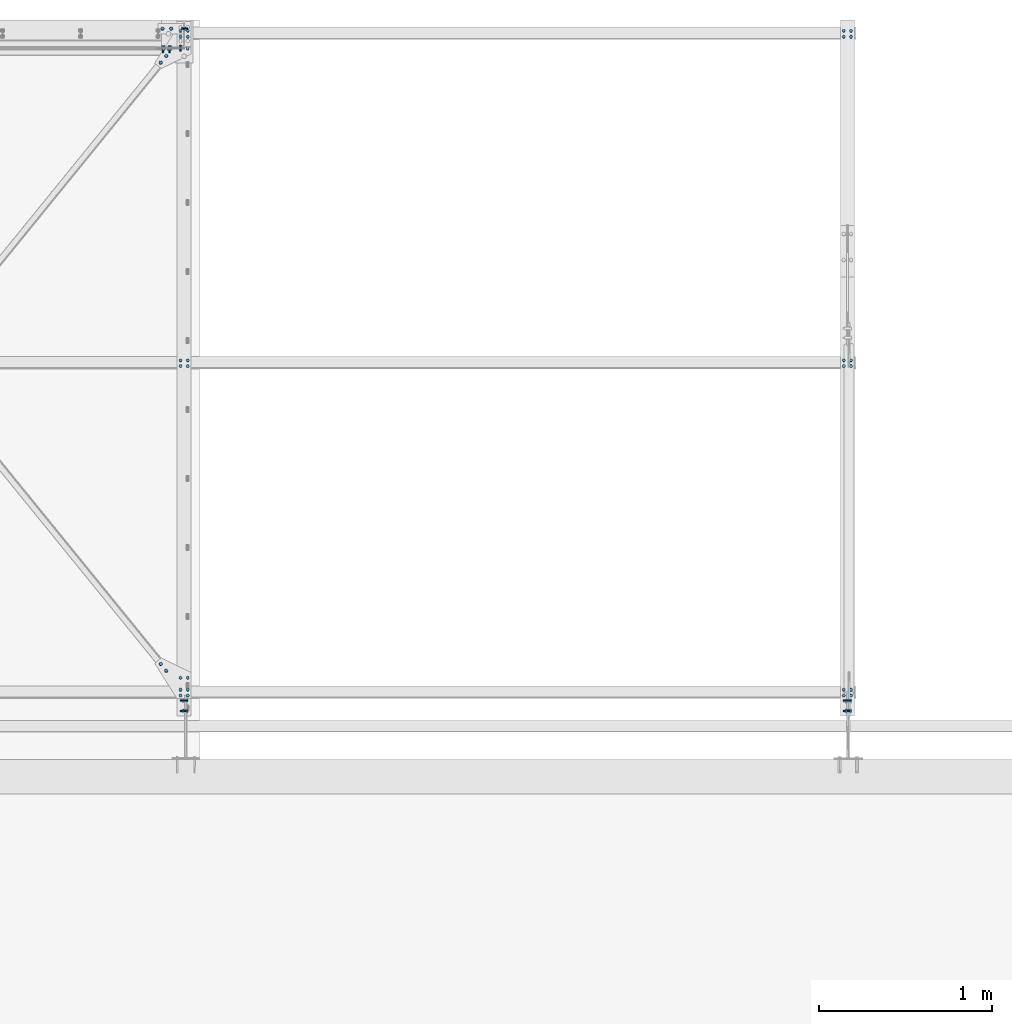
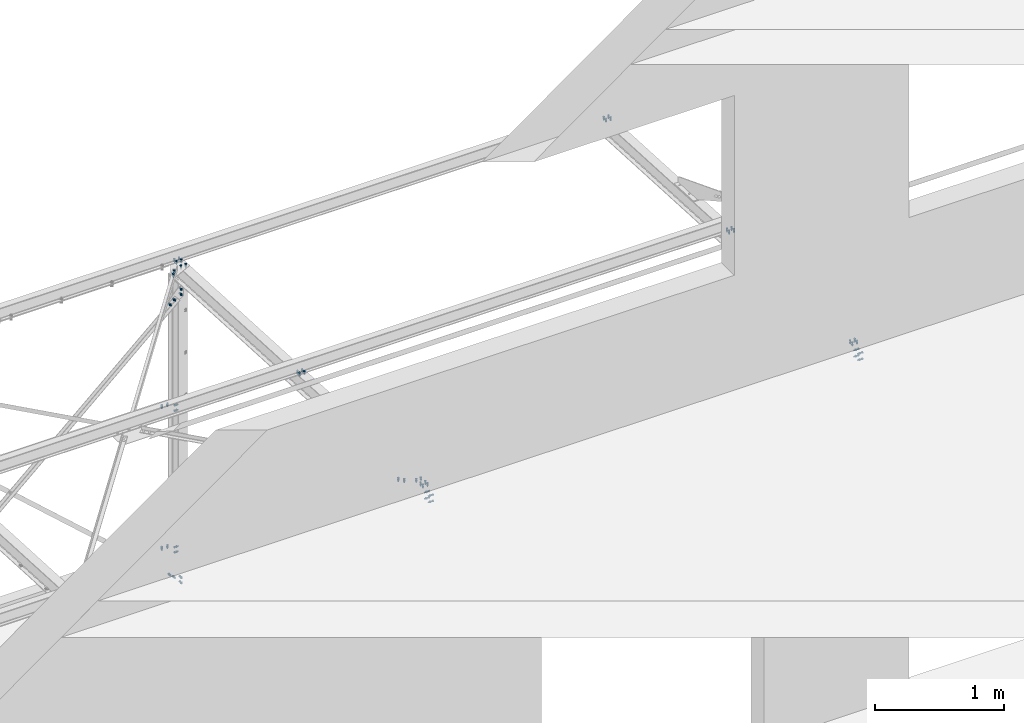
# One storey, part 340 of 362: 26 mechanical fasteners.
"""IFC2X3 building model written with IfcOpenShell, lengths in millimetres."""

from ifc_helpers import new_model, si_unit, frame, origin_with_axes, origin_2d_with_axis, place, context, subcontext, project, spatial, polyline, circle, outline, extrude, source, transform, mapped, material, type_object, element, save


model = new_model("IFC2X3")

# Units and contexts
model_context = context("Model", 3, precision=1e-05, world=origin_with_axes())
body_context = subcontext(model_context, "Body", "Model", "MODEL_VIEW")
ifc_project = project(units=[si_unit("LENGTHUNIT", "METRE", prefix="MILLI"), si_unit("AREAUNIT", "SQUARE_METRE"), si_unit("VOLUMEUNIT", "CUBIC_METRE"), si_unit("MASSUNIT", "GRAM", prefix="KILO"), si_unit("TIMEUNIT", "SECOND"), si_unit("PLANEANGLEUNIT", "RADIAN"), si_unit("SOLIDANGLEUNIT", "STERADIAN"), si_unit("THERMODYNAMICTEMPERATUREUNIT", "DEGREE_CELSIUS"), si_unit("LUMINOUSINTENSITYUNIT", "LUMEN")], contexts=[model_context])

# Site, building, storey
site_placement = place(None, origin_with_axes())
site = spatial("IfcSite", under=ifc_project, at=site_placement, Name="Undefined", CompositionType="ELEMENT")
building_placement = place(site_placement, origin_with_axes())
building = spatial("IfcBuilding", under=site, at=building_placement, Name="Undefined", CompositionType="ELEMENT")
storey_placement = place(building_placement, origin_with_axes())
storey = spatial("IfcBuildingStorey", under=building, at=storey_placement, Name="Undefined", CompositionType="ELEMENT", Elevation=0.0)

# Mechanical fasteners
ifc_material_1 = material(Name="8.8-SB-GALVA")
mechanical_fastener_type = type_object("IfcMechanicalFastenerType", Name="Bolt assembly")
shared_shape_1 = source(origin_with_axes(), body_context, "Body", "SweptSolid", [
    extrude(circle(Radius=7.0, at=origin_2d_with_axis()), frame((0.0, -6.40006625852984, 0.0), z_axis=(0.0, 1.0, 0.0), x_axis=(1.0, 0.0, 0.0)), (0.0, 0.0, 1.0), 4.0),
    extrude(circle(Radius=7.0, at=origin_2d_with_axis()), frame((0.0, -2.60000006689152, 0.0), z_axis=(0.0, 1.0, 0.0), x_axis=(1.0, 0.0, 0.0)), (0.0, 0.0, 1.0), 5.1),
    extrude(outline(polyline([(10.39230484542, 0.0), (5.19615242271, 9.00000000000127), (-5.19615242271, 9.00000000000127), (-10.39230484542, 0.0), (-5.19615242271, -9.00000000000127), (5.19615242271, -9.00000000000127), (10.39230484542, 0.0)])), frame((0.0, -14.4200662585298, 0.0), z_axis=(0.0, 1.0, 0.0), x_axis=(1.0, 0.0, 0.0)), (0.0, 0.0, 1.0), 7.92),
    extrude(circle(Radius=6.0, at=origin_2d_with_axis()), frame((0.0, -6.50006625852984, 0.0), z_axis=(0.0, 1.0, 0.0), x_axis=(1.0, 0.0, 0.0)), (0.0, 0.0, 1.0), 30.0),
    extrude(outline(polyline([(11.5008173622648, 0.0), (5.7504086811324, 9.96000000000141), (-5.7504086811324, 9.96000000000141), (-11.5008173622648, 0.0), (-5.7504086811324, -9.96000000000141), (5.7504086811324, -9.96000000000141), (11.5008173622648, 0.0)])), frame((0.0, 2.49999993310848, 0.0), z_axis=(0.0, 1.0, 0.0), x_axis=(1.0, 0.0, 0.0)), (0.0, 0.0, 1.0), 7.92),
])
mechanical_fastener_1_placement = place(storey_placement, frame((31918.8572022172, 29157.5, -74.6786560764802), z_axis=(0.666970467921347, 0.0, 0.745084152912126), x_axis=(-0.74508415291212, 0.0, 0.666970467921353)))
element("IfcMechanicalFastener", 1, at=mechanical_fastener_1_placement, inside=storey, type_object=mechanical_fastener_type, material=ifc_material_1, Name="Bolt assembly", NominalDiameter=12.0, NominalLength=30.0, context=body_context, shape_type="MappedRepresentation", body=[
    mapped(shared_shape_1, transform((0.0, 0.0, 0.0))),
    mapped(shared_shape_1, transform((49.9999999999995, 0.0, -3.63797880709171e-12))),
])
shared_shape_2 = source(origin_with_axes(), body_context, "Body", "SweptSolid", [
    extrude(circle(Radius=7.0, at=origin_2d_with_axis()), frame((0.0, 2.39993376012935, 0.0), z_axis=(0.0, 1.0, 0.0), x_axis=(1.0, 0.0, 0.0)), (0.0, 0.0, 1.0), 4.1),
    extrude(circle(Radius=7.0, at=origin_2d_with_axis()), frame((0.0, -2.4000000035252, 0.0), z_axis=(0.0, 1.0, 0.0), x_axis=(1.0, 0.0, 0.0)), (0.0, 0.0, 1.0), 5.0),
    extrude(outline(polyline([(10.39230484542, 0.0), (5.19615242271, 9.00000000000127), (-5.19615242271, 9.00000000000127), (-10.39230484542, 0.0), (-5.19615242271, -9.00000000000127), (5.19615242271, -9.00000000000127), (10.39230484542, 0.0)])), frame((0.0, -10.4200000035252, 0.0), z_axis=(0.0, 1.0, 0.0), x_axis=(1.0, 0.0, 0.0)), (0.0, 0.0, 1.0), 7.92),
    extrude(circle(Radius=6.0, at=origin_2d_with_axis()), frame((0.0, -2.5, 0.0), z_axis=(0.0, 1.0, 0.0), x_axis=(1.0, 0.0, 0.0)), (0.0, 0.0, 1.0), 30.0),
    extrude(outline(polyline([(11.5008173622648, 0.0), (5.7504086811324, 9.96000000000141), (-5.7504086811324, 9.96000000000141), (-11.5008173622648, 0.0), (-5.7504086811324, -9.96000000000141), (5.7504086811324, -9.96000000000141), (11.5008173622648, 0.0)])), frame((0.0, 6.49993376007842, 0.0), z_axis=(0.0, 1.0, 0.0), x_axis=(1.0, 0.0, 0.0)), (0.0, 0.0, 1.0), 7.92),
])
mechanical_fastener_2_placement = place(storey_placement, frame((31918.8571655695, 29157.5, 2549.67871421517), z_axis=(-0.666970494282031, 0.0, 0.745084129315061), x_axis=(-0.745084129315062, 0.0, -0.666970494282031)))
element("IfcMechanicalFastener", 2, at=mechanical_fastener_2_placement, inside=storey, type_object=mechanical_fastener_type, material=ifc_material_1, Name="Bolt assembly", NominalDiameter=12.0, NominalLength=30.0, context=body_context, shape_type="MappedRepresentation", body=[
    mapped(shared_shape_2, transform((0.0, 0.0, 0.0))),
    mapped(shared_shape_2, transform((49.9999999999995, 0.0, -3.63797880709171e-12))),
])
shared_shape_3 = source(origin_with_axes(), body_context, "Body", "SweptSolid", [
    extrude(circle(Radius=7.0, at=origin_2d_with_axis()), frame((0.0, -7.30184983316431, 0.0), z_axis=(0.0, 1.0, 0.0), x_axis=(1.0, 0.0, 0.0)), (0.0, 0.0, 1.0), 7.4),
    extrude(circle(Radius=7.0, at=origin_2d_with_axis()), frame((0.0, -0.10176059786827, 0.0), z_axis=(0.0, 1.0, 0.0), x_axis=(1.0, 0.0, 0.0)), (0.0, 0.0, 1.0), 5.1),
    extrude(outline(polyline([(10.39230484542, 0.0), (5.19615242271, 9.00000000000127), (-5.19615242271, 9.00000000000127), (-10.39230484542, 0.0), (-5.19615242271, -9.00000000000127), (5.19615242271, -9.00000000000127), (10.39230484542, 0.0)])), frame((0.0, -15.3218498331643, 0.0), z_axis=(0.0, 1.0, 0.0), x_axis=(1.0, 0.0, 0.0)), (0.0, 0.0, 1.0), 7.92),
    extrude(circle(Radius=6.0, at=origin_2d_with_axis()), frame((0.0, -7.40184983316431, 0.0), z_axis=(0.0, 1.0, 0.0), x_axis=(1.0, 0.0, 0.0)), (0.0, 0.0, 1.0), 30.0),
    extrude(outline(polyline([(11.5008173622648, 0.0), (5.7504086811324, 9.96000000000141), (-5.7504086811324, 9.96000000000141), (-11.5008173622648, 0.0), (-5.7504086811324, -9.96000000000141), (5.7504086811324, -9.96000000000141), (11.5008173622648, 0.0)])), frame((0.0, 4.99823941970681, 0.0), z_axis=(0.0, 1.0, 0.0), x_axis=(1.0, 0.0, 0.0)), (0.0, 0.0, 1.0), 7.92),
])
mechanical_fastener_3_placement = place(storey_placement, frame((31981.9998621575, 29159.9982394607, 2624.99961292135), z_axis=(-0.999999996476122, -8.38360000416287e-05, 4.39099999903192e-06), x_axis=(-4.39100001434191e-06, 0.0, -0.99999999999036)))
element("IfcMechanicalFastener", 3, at=mechanical_fastener_3_placement, inside=storey, type_object=mechanical_fastener_type, material=ifc_material_1, Name="Bolt assembly", NominalDiameter=12.0, NominalLength=30.0, context=body_context, shape_type="MappedRepresentation", body=[
    mapped(shared_shape_3, transform((0.0, 0.0, 0.0))),
    mapped(shared_shape_3, transform((49.9999999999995, 0.0, -3.63797880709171e-12))),
])
shared_shape_4 = source(origin_with_axes(), body_context, "Body", "SweptSolid", [
    extrude(circle(Radius=7.0, at=origin_2d_with_axis()), frame((0.0, -7.30007158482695, 0.0), z_axis=(0.0, 1.0, 0.0), x_axis=(1.0, 0.0, 0.0)), (0.0, 0.0, 1.0), 7.4),
    extrude(circle(Radius=7.0, at=origin_2d_with_axis()), frame((0.0, -0.100011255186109, 0.0), z_axis=(0.0, 1.0, 0.0), x_axis=(1.0, 0.0, 0.0)), (0.0, 0.0, 1.0), 5.1),
    extrude(outline(polyline([(10.39230484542, 0.0), (5.19615242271, 9.00000000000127), (-5.19615242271, 9.00000000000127), (-10.39230484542, 0.0), (-5.19615242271, -9.00000000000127), (5.19615242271, -9.00000000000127), (10.39230484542, 0.0)])), frame((0.0, -15.3200715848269, 0.0), z_axis=(0.0, 1.0, 0.0), x_axis=(1.0, 0.0, 0.0)), (0.0, 0.0, 1.0), 7.92),
    extrude(circle(Radius=6.0, at=origin_2d_with_axis()), frame((0.0, -7.40008403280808, 0.0), z_axis=(0.0, 1.0, 0.0), x_axis=(1.0, 0.0, 0.0)), (0.0, 0.0, 1.0), 30.0),
    extrude(outline(polyline([(11.5008173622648, 0.0), (5.7504086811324, 9.96000000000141), (-5.7504086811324, 9.96000000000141), (-11.5008173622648, 0.0), (-5.7504086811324, -9.96000000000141), (5.7504086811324, -9.96000000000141), (11.5008173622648, 0.0)])), frame((0.0, 5.0, 0.0), z_axis=(0.0, 1.0, 0.0), x_axis=(1.0, 0.0, 0.0)), (0.0, 0.0, 1.0), 7.92),
])
mechanical_fastener_4_placement = place(storey_placement, frame((31981.9999712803, 29160.0000052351, -150.000000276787), z_axis=(1.0, 0.0, 0.0), x_axis=(0.0, 0.0, 1.0)))
element("IfcMechanicalFastener", 4, at=mechanical_fastener_4_placement, inside=storey, type_object=mechanical_fastener_type, material=ifc_material_1, Name="Bolt assembly", NominalDiameter=12.0, NominalLength=30.0, context=body_context, shape_type="MappedRepresentation", body=[
    mapped(shared_shape_4, transform((0.0, 0.0, 0.0))),
    mapped(shared_shape_4, transform((49.9999999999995, 0.0, -3.63797880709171e-12))),
])
shared_shape_5 = source(origin_with_axes(), body_context, "Body", "SweptSolid", [
    extrude(circle(Radius=7.0, at=origin_2d_with_axis()), frame((0.0, 0.1, 0.0), z_axis=(0.0, 1.0, 0.0), x_axis=(1.0, 0.0, 0.0)), (0.0, 0.0, 1.0), 4.0),
    extrude(circle(Radius=7.0, at=origin_2d_with_axis()), frame((0.0, 3.9, 0.0), z_axis=(0.0, 1.0, 0.0), x_axis=(1.0, 0.0, 0.0)), (0.0, 0.0, 1.0), 5.1),
    extrude(outline(polyline([(10.39230484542, 0.0), (5.19615242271, 9.00000000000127), (-5.19615242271, 9.00000000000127), (-10.39230484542, 0.0), (-5.19615242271, -9.00000000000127), (5.19615242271, -9.00000000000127), (10.39230484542, 0.0)])), frame((0.0, -7.91999999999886, 0.0), z_axis=(0.0, 1.0, 0.0), x_axis=(1.0, 0.0, 0.0)), (0.0, 0.0, 1.0), 7.92),
    extrude(circle(Radius=6.0, at=origin_2d_with_axis()), frame((0.0, 0.0, 0.0), z_axis=(0.0, 1.0, 0.0), x_axis=(1.0, 0.0, 0.0)), (0.0, 0.0, 1.0), 30.0),
    extrude(outline(polyline([(11.5008173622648, 0.0), (5.7504086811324, 9.96000000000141), (-5.7504086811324, 9.96000000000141), (-11.5008173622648, 0.0), (-5.7504086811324, -9.96000000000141), (5.7504086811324, -9.96000000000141), (11.5008173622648, 0.0)])), frame((0.0, 8.99999939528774, 0.0), z_axis=(0.0, 1.0, 0.0), x_axis=(1.0, 0.0, 0.0)), (0.0, 0.0, 1.0), 7.92),
])
for number, where, z_axis, x_axis, name in (
    (5, (31877.9999406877, 29270.000022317, 150.0), (0.0, 1.0, 0.0), (1.0, 0.0, 0.0), "Bolt assembly"),
    (6, (31877.9999406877, 29270.000022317, 1490.0), (0.0, 1.0, 0.0), (1.0, 0.0, 0.0), "Bolt assembly"),
):
    element("IfcMechanicalFastener", number, at=place(storey_placement, frame(where, z_axis=z_axis, x_axis=x_axis)), inside=storey, type_object=mechanical_fastener_type, material=ifc_material_1, Name=name, NominalDiameter=12.0, NominalLength=30.0, context=body_context, shape_type="MappedRepresentation", body=[
        mapped(shared_shape_5, transform((0.0, 0.0, 0.0))),
        mapped(shared_shape_5, transform((49.9999999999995, 0.0, -3.63797880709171e-12))),
    ])
shared_shape_6 = source(origin_with_axes(), body_context, "Body", "SweptSolid", [
    extrude(circle(Radius=7.0, at=origin_2d_with_axis()), frame((0.0, -2.60000006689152, 0.0), z_axis=(0.0, 1.0, 0.0), x_axis=(1.0, 0.0, 0.0)), (0.0, 0.0, 1.0), 5.1),
    extrude(circle(Radius=7.0, at=origin_2d_with_axis()), frame((0.0, -7.9, 0.0), z_axis=(0.0, 1.0, 0.0), x_axis=(1.0, 0.0, 0.0)), (0.0, 0.0, 1.0), 5.0),
    extrude(outline(polyline([(10.39230484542, 0.0), (5.19615242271, 9.00000000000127), (-5.19615242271, 9.00000000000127), (-10.39230484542, 0.0), (-5.19615242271, -9.00000000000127), (5.19615242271, -9.00000000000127), (10.39230484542, 0.0)])), frame((0.0, -15.92, 0.0), z_axis=(0.0, 1.0, 0.0), x_axis=(1.0, 0.0, 0.0)), (0.0, 0.0, 1.0), 7.92),
    extrude(circle(Radius=6.0, at=origin_2d_with_axis()), frame((0.0, -8.0, 0.0), z_axis=(0.0, 1.0, 0.0), x_axis=(1.0, 0.0, 0.0)), (0.0, 0.0, 1.0), 30.0),
    extrude(outline(polyline([(11.5008173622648, 0.0), (5.7504086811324, 9.96000000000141), (-5.7504086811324, 9.96000000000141), (-11.5008173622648, 0.0), (-5.7504086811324, -9.96000000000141), (5.7504086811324, -9.96000000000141), (11.5008173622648, 0.0)])), frame((0.0, 2.49999993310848, 0.0), z_axis=(0.0, 1.0, 0.0), x_axis=(1.0, 0.0, 0.0)), (0.0, 0.0, 1.0), 7.92),
])
for number, where, z_axis, x_axis, name in (
    (7, (32002.999970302, 29270.0000000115, 61.0000006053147), (0.0, 1.0, 0.0), (0.0, 0.0, 1.0), "Bolt assembly"),
    (8, (32002.999970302, 29270.0000000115, 1401.00000060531), (0.0, 1.0, 0.0), (0.0, 0.0, 1.0), "Bolt assembly"),
):
    element("IfcMechanicalFastener", number, at=place(storey_placement, frame(where, z_axis=z_axis, x_axis=x_axis)), inside=storey, type_object=mechanical_fastener_type, material=ifc_material_1, Name=name, NominalDiameter=12.0, NominalLength=30.0, context=body_context, shape_type="MappedRepresentation", body=[
        mapped(shared_shape_6, transform((0.0, 0.0, 0.0))),
        mapped(shared_shape_6, transform((49.9999999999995, 0.0, -3.63797880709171e-12))),
    ])
ifc_material_2 = material(Name="6.8")
shared_shape_7 = source(origin_with_axes(), body_context, "Body", "SweptSolid", [
    extrude(circle(Radius=6.0, at=origin_2d_with_axis()), frame((0.0, -0.100011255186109, 0.0), z_axis=(0.0, 1.0, 0.0), x_axis=(1.0, 0.0, 0.0)), (0.0, 0.0, 1.0), 7.5),
    extrude(circle(Radius=6.0, at=origin_2d_with_axis()), frame((0.0, -2.4000000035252, 0.0), z_axis=(0.0, 1.0, 0.0), x_axis=(1.0, 0.0, 0.0)), (0.0, 0.0, 1.0), 5.0),
    extrude(outline(polyline([(9.81495457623, 0.0), (4.907477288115, 8.5000000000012), (-4.907477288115, 8.5000000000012), (-9.81495457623, 0.0), (-4.907477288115, -8.5000000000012), (4.907477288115, -8.5000000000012), (9.81495457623, 0.0)])), frame((0.0, -10.0000010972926, 0.0), z_axis=(0.0, 1.0, 0.0), x_axis=(1.0, 0.0, 0.0)), (0.0, 0.0, 1.0), 7.5),
    extrude(circle(Radius=5.0, at=origin_2d_with_axis()), frame((0.0, -2.5, 0.0), z_axis=(0.0, 1.0, 0.0), x_axis=(1.0, 0.0, 0.0)), (0.0, 0.0, 1.0), 30.0),
    extrude(outline(polyline([(9.23760430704, 0.0), (4.61880215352, 8.00000000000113), (-4.61880215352, 8.00000000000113), (-9.23760430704, 0.0), (-4.61880215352, -8.00000000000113), (4.61880215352, -8.00000000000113), (9.23760430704, 0.0)])), frame((0.0, 7.40000130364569, 0.0), z_axis=(0.0, 1.0, 0.0), x_axis=(1.0, 0.0, 0.0)), (0.0, 0.0, 1.0), 8.4),
])
for number, where, z_axis, x_axis, name in (
    (9, (32002.9999597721, 25511.1982472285, 3033.31818538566), (1.0, 0.0, 0.0), (0.0, -0.998630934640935, 0.0523092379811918), "Bolt assembly"),
    (10, (32002.9999505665, 29154.0293190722, 2842.50322976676), (-1.0, 0.0, 0.0), (-6.99999093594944e-09, 0.998630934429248, -0.0523092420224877), "Bolt assembly"),
):
    element("IfcMechanicalFastener", number, at=place(storey_placement, frame(where, z_axis=z_axis, x_axis=x_axis)), inside=storey, type_object=mechanical_fastener_type, material=ifc_material_2, Name=name, NominalDiameter=10.0, NominalLength=30.0, context=body_context, shape_type="MappedRepresentation", body=[
        mapped(shared_shape_7, transform((0.0, 0.0, -21.0))),
        mapped(shared_shape_7, transform((0.0, 0.0, 21.0))),
    ])
shared_shape_8 = source(origin_with_axes(), body_context, "Body", "SweptSolid", [
    extrude(circle(Radius=7.0, at=origin_2d_with_axis()), frame((0.0, -6.9, 0.0), z_axis=(0.0, 1.0, 0.0), x_axis=(1.0, 0.0, 0.0)), (0.0, 0.0, 1.0), 4.0),
    extrude(circle(Radius=7.0, at=origin_2d_with_axis()), frame((0.0, -2.60000006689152, 0.0), z_axis=(0.0, 1.0, 0.0), x_axis=(1.0, 0.0, 0.0)), (0.0, 0.0, 1.0), 5.1),
    extrude(outline(polyline([(10.39230484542, 0.0), (5.19615242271, 9.00000000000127), (-5.19615242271, 9.00000000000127), (-10.39230484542, 0.0), (-5.19615242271, -9.00000000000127), (5.19615242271, -9.00000000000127), (10.39230484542, 0.0)])), frame((0.0, -14.92, 0.0), z_axis=(0.0, 1.0, 0.0), x_axis=(1.0, 0.0, 0.0)), (0.0, 0.0, 1.0), 7.92),
    extrude(circle(Radius=6.0, at=origin_2d_with_axis()), frame((0.0, -7.0, 0.0), z_axis=(0.0, 1.0, 0.0), x_axis=(1.0, 0.0, 0.0)), (0.0, 0.0, 1.0), 30.0),
    extrude(outline(polyline([(11.5008173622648, 0.0), (5.7504086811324, 9.96000000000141), (-5.7504086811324, 9.96000000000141), (-11.5008173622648, 0.0), (-5.7504086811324, -9.96000000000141), (5.7504086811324, -9.96000000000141), (11.5008173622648, 0.0)])), frame((0.0, 2.49999993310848, 0.0), z_axis=(0.0, 1.0, 0.0), x_axis=(1.0, 0.0, 0.0)), (0.0, 0.0, 1.0), 7.92),
])
for number, where, z_axis, x_axis, name in (
    (11, (31899.2102214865, 29112.2793323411, 2844.69013037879), (0.776487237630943, -0.629270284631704, 0.0329617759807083), (-0.630132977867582, -0.775424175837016, 0.0406174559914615), "Bolt assembly"),
    (12, (31899.2102518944, 25552.9467522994, 3031.13135787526), (-0.776487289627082, -0.629270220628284, 0.032961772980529), (-0.63013291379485, 0.77542422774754, -0.0406174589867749), "Bolt assembly"),
):
    element("IfcMechanicalFastener", number, at=place(storey_placement, frame(where, z_axis=z_axis, x_axis=x_axis)), inside=storey, type_object=mechanical_fastener_type, material=ifc_material_1, Name=name, NominalDiameter=12.0, NominalLength=30.0, context=body_context, shape_type="MappedRepresentation", body=[
        mapped(shared_shape_8, transform((0.0, 0.0, 0.0))),
        mapped(shared_shape_8, transform((49.9999999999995, 0.0, -3.63797880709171e-12))),
    ])
shared_shape_9 = source(origin_with_axes(), body_context, "Body", "SweptSolid", [
    extrude(circle(Radius=6.0, at=origin_2d_with_axis()), frame((0.0, -0.100011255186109, 0.0), z_axis=(0.0, 1.0, 0.0), x_axis=(1.0, 0.0, 0.0)), (0.0, 0.0, 1.0), 7.5),
    extrude(circle(Radius=6.0, at=origin_2d_with_axis()), frame((0.0, -6.19999893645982, 0.0), z_axis=(0.0, 1.0, 0.0), x_axis=(1.0, 0.0, 0.0)), (0.0, 0.0, 1.0), 6.3),
    extrude(outline(polyline([(9.81495457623, 0.0), (4.907477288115, 8.5000000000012), (-4.907477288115, 8.5000000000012), (-9.81495457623, 0.0), (-4.907477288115, -8.5000000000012), (4.907477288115, -8.5000000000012), (9.81495457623, 0.0)])), frame((0.0, -13.7999989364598, 0.0), z_axis=(0.0, 1.0, 0.0), x_axis=(1.0, 0.0, 0.0)), (0.0, 0.0, 1.0), 7.5),
    extrude(circle(Radius=5.0, at=origin_2d_with_axis()), frame((0.0, -6.29999893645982, 0.0), z_axis=(0.0, 1.0, 0.0), x_axis=(1.0, 0.0, 0.0)), (0.0, 0.0, 1.0), 30.0),
    extrude(outline(polyline([(9.23760430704, 0.0), (4.61880215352, 8.00000000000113), (-4.61880215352, 8.00000000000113), (-9.23760430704, 0.0), (-4.61880215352, -8.00000000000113), (4.61880215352, -8.00000000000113), (9.23760430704, 0.0)])), frame((0.0, 7.40000130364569, 0.0), z_axis=(0.0, 1.0, 0.0), x_axis=(1.0, 0.0, 0.0)), (0.0, 0.0, 1.0), 8.4),
])
for number, where, z_axis, x_axis, name in (
    (13, (32023.9999692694, 27332.6130583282, 2937.91074482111), (0.0, -0.998630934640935, 0.0523092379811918), (-1.0, 0.0, 0.0), "Bolt assembly"),
    (14, (35863.9999387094, 29240.000113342, 2837.99999585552), (0.0, -0.998630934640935, 0.0523092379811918), (-1.0, 0.0, 0.0), "Bolt assembly"),
    (15, (35863.9999387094, 27332.6130853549, 2937.91074339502), (0.0, -0.998630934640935, 0.0523092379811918), (-1.0, 0.0, 0.0), "Bolt assembly"),
    (16, (35863.9999387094, 25425.2260573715, 3037.82149093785), (0.0, -0.998630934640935, 0.0523092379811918), (-1.0, 0.0, 0.0), "Bolt assembly"),
):
    element("IfcMechanicalFastener", number, at=place(storey_placement, frame(where, z_axis=z_axis, x_axis=x_axis)), inside=storey, type_object=mechanical_fastener_type, material=ifc_material_2, Name=name, NominalDiameter=10.0, NominalLength=30.0, context=body_context, shape_type="MappedRepresentation", body=[
        mapped(shared_shape_9, transform((0.0, 3.18323145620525e-11, -16.9999999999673))),
        mapped(shared_shape_9, transform((42.0, 3.18323145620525e-11, -16.9999999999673))),
        mapped(shared_shape_9, transform((0.0, -3.18323145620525e-11, 16.9999999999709))),
        mapped(shared_shape_9, transform((42.0, -3.18323145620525e-11, 16.9999999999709))),
    ])
shared_shape_10 = source(origin_with_axes(), body_context, "Body", "SweptSolid", [
    extrude(circle(Radius=6.0, at=origin_2d_with_axis()), frame((0.0, -0.100011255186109, 0.0), z_axis=(0.0, 1.0, 0.0), x_axis=(1.0, 0.0, 0.0)), (0.0, 0.0, 1.0), 7.5),
    extrude(circle(Radius=6.0, at=origin_2d_with_axis()), frame((0.0, -6.19999893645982, 0.0), z_axis=(0.0, 1.0, 0.0), x_axis=(1.0, 0.0, 0.0)), (0.0, 0.0, 1.0), 6.3),
    extrude(circle(Radius=6.0, at=origin_2d_with_axis()), frame((0.0, -2.5, 0.0), z_axis=(0.0, 1.0, 0.0), x_axis=(1.0, 0.0, 0.0)), (0.0, 0.0, 1.0), 5.0),
    extrude(outline(polyline([(9.81495457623, 0.0), (4.907477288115, 8.5000000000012), (-4.907477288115, 8.5000000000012), (-9.81495457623, 0.0), (-4.907477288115, -8.5000000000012), (4.907477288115, -8.5000000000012), (9.81495457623, 0.0)])), frame((0.0, -13.7999989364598, 0.0), z_axis=(0.0, 1.0, 0.0), x_axis=(1.0, 0.0, 0.0)), (0.0, 0.0, 1.0), 7.5),
    extrude(circle(Radius=5.0, at=origin_2d_with_axis()), frame((0.0, -6.29999893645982, 0.0), z_axis=(0.0, 1.0, 0.0), x_axis=(1.0, 0.0, 0.0)), (0.0, 0.0, 1.0), 30.0),
    extrude(outline(polyline([(9.23760430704, 0.0), (4.61880215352, 8.00000000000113), (-4.61880215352, 8.00000000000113), (-9.23760430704, 0.0), (-4.61880215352, -8.00000000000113), (4.61880215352, -8.00000000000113), (9.23760430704, 0.0)])), frame((0.0, 7.40000130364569, 0.0), z_axis=(0.0, 1.0, 0.0), x_axis=(1.0, 0.0, 0.0)), (0.0, 0.0, 1.0), 8.4),
])
for number, where, z_axis, x_axis, name in (
    (17, (32023.9999692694, 25425.2260303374, 3037.82149236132), (0.0, -0.998630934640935, 0.0523092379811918), (-1.0, 0.0, 0.0), "Bolt assembly"),
    (18, (32023.9999692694, 29240.0001135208, 2837.9999958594), (0.0, -0.998630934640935, 0.0523092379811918), (-1.0, 0.0, 0.0), "Bolt assembly"),
):
    element("IfcMechanicalFastener", number, at=place(storey_placement, frame(where, z_axis=z_axis, x_axis=x_axis)), inside=storey, type_object=mechanical_fastener_type, material=ifc_material_2, Name=name, NominalDiameter=10.0, NominalLength=30.0, context=body_context, shape_type="MappedRepresentation", body=[
        mapped(shared_shape_10, transform((0.0, 3.18323145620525e-11, -16.9999999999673))),
        mapped(shared_shape_10, transform((42.0, 3.18323145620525e-11, -16.9999999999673))),
        mapped(shared_shape_10, transform((0.0, -3.18323145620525e-11, 16.9999999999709))),
        mapped(shared_shape_10, transform((42.0, -3.18323145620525e-11, 16.9999999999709))),
    ])
shared_shape_11 = source(origin_with_axes(), body_context, "Body", "SweptSolid", [
    extrude(circle(Radius=7.0, at=origin_2d_with_axis()), frame((0.0, -2.60000006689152, 0.0), z_axis=(0.0, 1.0, 0.0), x_axis=(1.0, 0.0, 0.0)), (0.0, 0.0, 1.0), 5.1),
    extrude(circle(Radius=7.0, at=origin_2d_with_axis()), frame((0.0, -14.899999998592, 0.0), z_axis=(0.0, 1.0, 0.0), x_axis=(1.0, 0.0, 0.0)), (0.0, 0.0, 1.0), 10.0),
    extrude(outline(polyline([(10.39230484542, 0.0), (5.19615242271, 9.00000000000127), (-5.19615242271, 9.00000000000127), (-10.39230484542, 0.0), (-5.19615242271, -9.00000000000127), (5.19615242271, -9.00000000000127), (10.39230484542, 0.0)])), frame((0.0, -22.919999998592, 0.0), z_axis=(0.0, 1.0, 0.0), x_axis=(1.0, 0.0, 0.0)), (0.0, 0.0, 1.0), 7.92),
    extrude(circle(Radius=6.0, at=origin_2d_with_axis()), frame((0.0, -14.999999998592, 0.0), z_axis=(0.0, 1.0, 0.0), x_axis=(1.0, 0.0, 0.0)), (0.0, 0.0, 1.0), 40.0),
    extrude(outline(polyline([(11.5008173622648, 0.0), (5.7504086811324, 9.96000000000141), (-5.7504086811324, 9.96000000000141), (-11.5008173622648, 0.0), (-5.7504086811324, -9.96000000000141), (5.7504086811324, -9.96000000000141), (11.5008173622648, 0.0)])), frame((0.0, 2.49999993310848, 0.0), z_axis=(0.0, 1.0, 0.0), x_axis=(1.0, 0.0, 0.0)), (0.0, 0.0, 1.0), 7.92),
])
for number, where, z_axis, x_axis, name in (
    (19, (32002.9999703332, 25320.0, 2993.26478427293), (0.0, -1.0, 0.0), (0.0, 0.0, 1.0), "Bolt assembly"),
    (20, (32002.9999703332, 25380.0, 2990.12192721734), (0.0, -1.0, 0.0), (0.0, 0.0, 1.0), "Bolt assembly"),
    (21, (32002.9999703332, 25320.0, 2933.18252773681), (0.0, 1.0, 0.0), (0.0, 0.0, -1.0), "Bolt assembly"),
    (22, (32002.9999703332, 25380.0, 2930.03967068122), (0.0, 1.0, 0.0), (0.0, 0.0, -1.0), "Bolt assembly"),
    (23, (35842.9999703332, 25319.9999998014, 2993.26478427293), (0.0, -1.0, 0.0), (0.0, 0.0, 1.0), "Bolt assembly"),
    (24, (35842.9999703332, 25379.9999998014, 2990.12192721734), (0.0, -1.0, 0.0), (0.0, 0.0, 1.0), "Bolt assembly"),
    (25, (35842.9999703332, 25319.9999998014, 2933.18252773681), (0.0, 1.0, 0.0), (0.0, 0.0, -1.0), "Bolt assembly"),
    (26, (35842.9999703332, 25379.9999998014, 2930.03967068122), (0.0, 1.0, 0.0), (0.0, 0.0, -1.0), "Bolt assembly"),
):
    element("IfcMechanicalFastener", number, at=place(storey_placement, frame(where, z_axis=z_axis, x_axis=x_axis)), inside=storey, type_object=mechanical_fastener_type, material=ifc_material_1, Name=name, NominalDiameter=12.0, NominalLength=40.0, context=body_context, shape_type="MappedRepresentation", body=[
        mapped(shared_shape_11, transform((0.0, 0.0, 0.0))),
    ])

save(model, "model.ifc")
